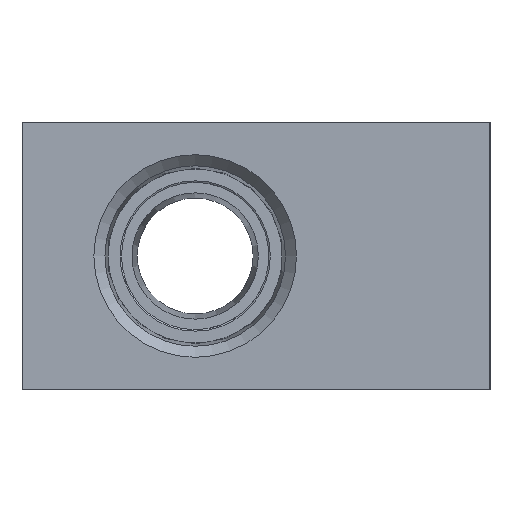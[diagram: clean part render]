
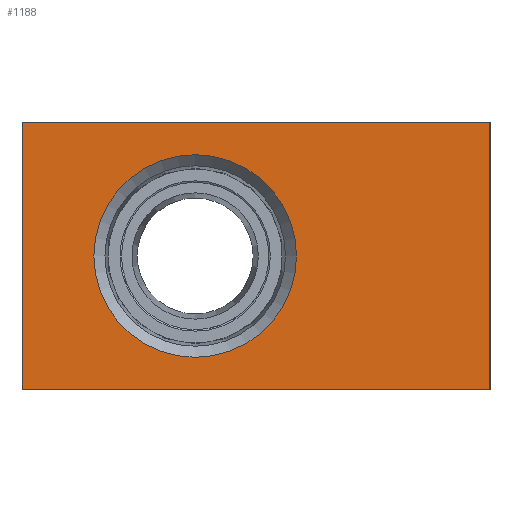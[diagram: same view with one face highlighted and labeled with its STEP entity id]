
A CAD part, left-side view. The second image highlights one B-rep face of the part: STEP entity #1188.
In plain terms, the highlighted planar face has unit normal (-1, 0, 0).
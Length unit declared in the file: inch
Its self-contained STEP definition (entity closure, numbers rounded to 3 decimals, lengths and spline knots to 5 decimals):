
#2 = CARTESIAN_POINT ( 'NONE',  ( -1.83071, 0.31496, 0.3788 ) ) ;
#30 = ORIENTED_EDGE ( 'NONE', *, *, #484, .F. ) ;
#63 = VERTEX_POINT ( 'NONE', #418 ) ;
#92 = LINE ( 'NONE', #787, #297 ) ;
#114 = CARTESIAN_POINT ( 'NONE',  ( -1.83071, 0.9626, 0.59055 ) ) ;
#119 = VERTEX_POINT ( 'NONE', #872 ) ;
#161 = PLANE ( 'NONE',  #552 ) ;
#185 = AXIS2_PLACEMENT_3D ( 'NONE', #983, #416, #513 ) ;
#195 = VECTOR ( 'NONE', #835, 39.37008 ) ;
#208 = EDGE_CURVE ( 'NONE', #229, #229, #1354, .T. ) ;
#229 = VERTEX_POINT ( 'NONE', #2 ) ;
#252 = LINE ( 'NONE', #345, #1178 ) ;
#297 = VECTOR ( 'NONE', #1137, 39.37008 ) ;
#345 = CARTESIAN_POINT ( 'NONE',  ( -1.83071, 0.9626, -0.5 ) ) ;
#416 = DIRECTION ( 'NONE',  ( 1., 0., 0. ) ) ;
#418 = CARTESIAN_POINT ( 'NONE',  ( -1.83071, -0.7874, -0.5 ) ) ;
#484 = EDGE_CURVE ( 'NONE', #119, #831, #922, .T. ) ;
#509 = FACE_BOUND ( 'NONE', #1415, .T. ) ;
#513 = DIRECTION ( 'NONE',  ( 0., 0., 1. ) ) ;
#517 = DIRECTION ( 'NONE',  ( 0., 0., 1. ) ) ;
#534 = CARTESIAN_POINT ( 'NONE',  ( -1.83071, 0.9626, 0.5 ) ) ;
#552 = AXIS2_PLACEMENT_3D ( 'NONE', #1448, #728, #517 ) ;
#567 = VERTEX_POINT ( 'NONE', #1167 ) ;
#610 = ORIENTED_EDGE ( 'NONE', *, *, #208, .T. ) ;
#728 = DIRECTION ( 'NONE',  ( -1., 0., 0. ) ) ;
#787 = CARTESIAN_POINT ( 'NONE',  ( -1.83071, 0.9626, 0.5 ) ) ;
#801 = EDGE_CURVE ( 'NONE', #831, #567, #92, .T. ) ;
#831 = VERTEX_POINT ( 'NONE', #534 ) ;
#835 = DIRECTION ( 'NONE',  ( 0., 0., 1. ) ) ;
#872 = CARTESIAN_POINT ( 'NONE',  ( -1.83071, 0.9626, -0.5 ) ) ;
#922 = LINE ( 'NONE', #114, #195 ) ;
#932 = ORIENTED_EDGE ( 'NONE', *, *, #1153, .F. ) ;
#983 = CARTESIAN_POINT ( 'NONE',  ( -1.83071, 0.31496, 0. ) ) ;
#1024 = VECTOR ( 'NONE', #1440, 39.37008 ) ;
#1097 = CARTESIAN_POINT ( 'NONE',  ( -1.83071, -0.7874, 0.59055 ) ) ;
#1137 = DIRECTION ( 'NONE',  ( 0., -1., 0. ) ) ;
#1153 = EDGE_CURVE ( 'NONE', #63, #119, #252, .T. ) ;
#1167 = CARTESIAN_POINT ( 'NONE',  ( -1.83071, -0.7874, 0.5 ) ) ;
#1175 = EDGE_CURVE ( 'NONE', #63, #567, #1425, .T. ) ;
#1178 = VECTOR ( 'NONE', #1385, 39.37008 ) ;
#1188 = ADVANCED_FACE ( 'NONE', ( #509, #1433 ), #161, .T. ) ;
#1295 = ORIENTED_EDGE ( 'NONE', *, *, #1175, .T. ) ;
#1319 = EDGE_LOOP ( 'NONE', ( #1295, #1366, #30, #932 ) ) ;
#1354 = CIRCLE ( 'NONE', #185, 0.3788 ) ;
#1366 = ORIENTED_EDGE ( 'NONE', *, *, #801, .F. ) ;
#1385 = DIRECTION ( 'NONE',  ( 0., 1., 0. ) ) ;
#1415 = EDGE_LOOP ( 'NONE', ( #610 ) ) ;
#1425 = LINE ( 'NONE', #1097, #1024 ) ;
#1433 = FACE_OUTER_BOUND ( 'NONE', #1319, .T. ) ;
#1440 = DIRECTION ( 'NONE',  ( 0., 0., 1. ) ) ;
#1448 = CARTESIAN_POINT ( 'NONE',  ( -1.83071, 0., 0. ) ) ;
